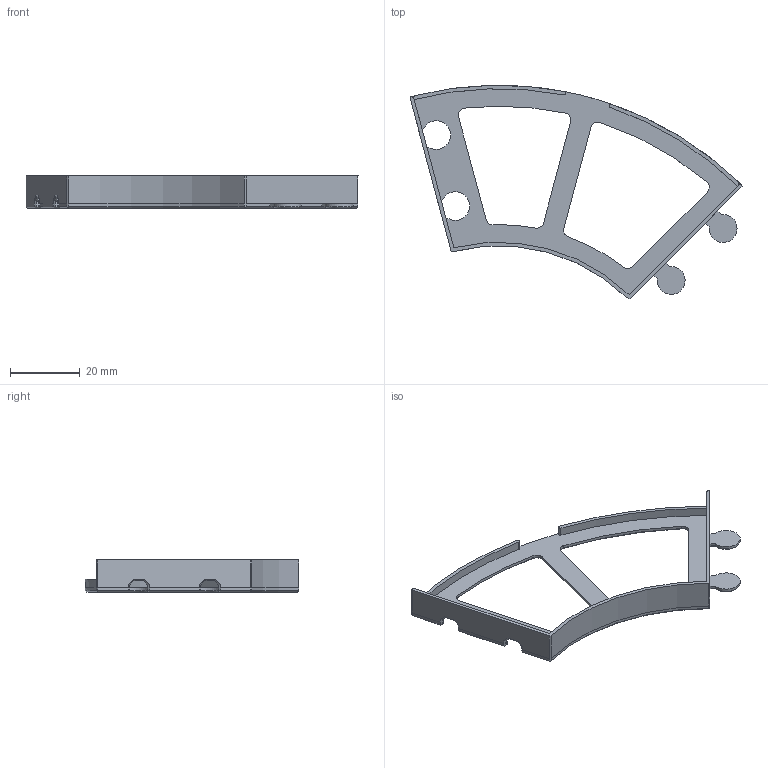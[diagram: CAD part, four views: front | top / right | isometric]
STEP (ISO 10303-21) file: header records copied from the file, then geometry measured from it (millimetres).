
FILE_DESCRIPTION(('FreeCAD Model'),'2;1');
FILE_NAME( 'D:/GitRepo/CAD-Design/FreeCAD/Spool_Organizer/Frame_60.V03.step', '2017-11-26T14:57:11',('Author'),(''), 'Open CASCADE STEP processor 7.1','FreeCAD','Unknown');
FILE_SCHEMA(('AUTOMOTIVE_DESIGN { 1 0 10303 214 1 1 1 1 }'));
Length unit declared in the file: millimetre
Products named in the file (1): Frame_B.10.Chamfer
Bounding box: 94.9 x 61.02 x 9.2 mm (x, y, z)
Volume: 3434.8 mm3; surface area: 6829.1 mm2
Topology: 1 solids, 1 shells, 149 faces, 373 edges, 222 vertices
Faces by surface type: plane 91, cylinder 34, cone 22, bspline 2
Entity records: 9626 total; most frequent: CARTESIAN_POINT 2320, DIRECTION 1327, LINE 824, VECTOR 824, ORIENTED_EDGE 746, PCURVE 746, DEFINITIONAL_REPRESENTATION 746, EDGE_CURVE 373
